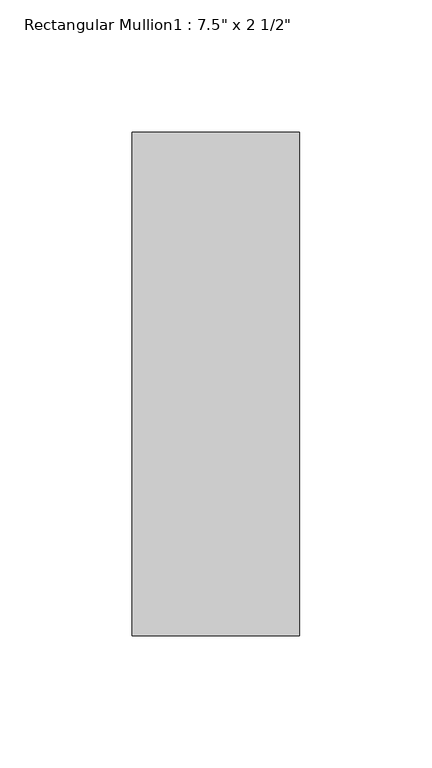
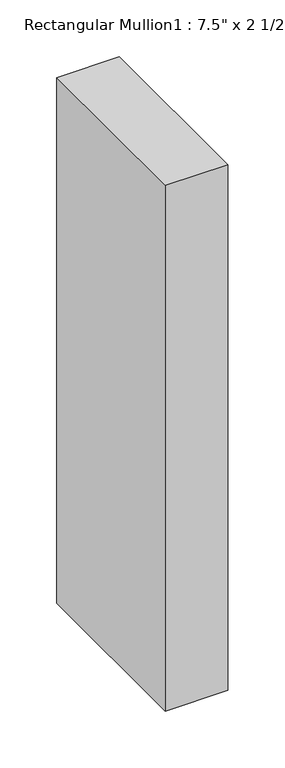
"""IFC4 building model written with IfcOpenShell, lengths in millimetres: member geometry."""

from ifc_helpers import new_model, si_unit, frame, origin, place, context, project, spatial, polyline, outline, extrude, source, transform, mapped, element, save


def member_92140a6d(model_context):
    return source(origin(), model_context, "Body", "SweptSolid", [
        extrude(outline(polyline([(-63.5, 165.1), (0.0, 165.1), (0.0, -25.4), (-63.5, -25.4), (-63.5, 165.1)])), frame((0.0, 0.0, -564.1310879), z_axis=(0.0, 0.0, 1.0), x_axis=(1.0, 0.0, 0.0)), (0.0, 0.0, 1.0), 564.1310879),
    ])


if __name__ == "__main__":
    model = new_model("IFC4")
    model_context = context("Model", 3, world=origin())
    ifc_project = project(units=[si_unit("LENGTHUNIT", "METRE", prefix="MILLI")], contexts=[model_context])
    site = spatial("IfcSite", under=ifc_project)
    building = spatial("IfcBuilding", under=site)
    placement = place(None, origin())
    member_shape = member_92140a6d(model_context)
    element("IfcMember", 1, ObjectType="Rectangular Mullion1 : 7.5\" x 2 1/2\"", at=placement, inside=building, context=model_context, shape_type="MappedRepresentation", body=[
        mapped(member_shape, transform((0.0, 0.0, 0.0), x_axis=(1.0, 0.0, 0.0), y_axis=(0.0, 1.0, 0.0), z_axis=(0.0, 0.0, 1.0))),
    ])
    save(model, "model.ifc")
